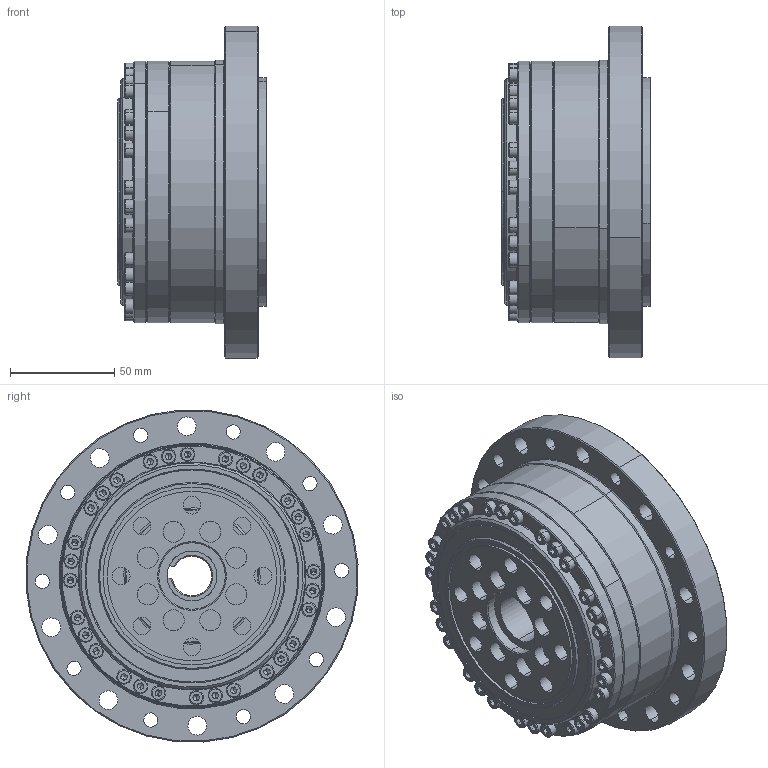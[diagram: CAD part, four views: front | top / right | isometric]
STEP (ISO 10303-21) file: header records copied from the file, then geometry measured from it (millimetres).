
FILE_DESCRIPTION (( 'STEP AP203' ), '1' );
FILE_NAME ('LCSG-40-XXX-C-I-S0.STEP', '2021-09-17T08:32:14', ( 'User' ), ( 'china' ), 'SwSTEP 2.0', 'SolidWorks 2013', '' );
FILE_SCHEMA (( 'CONFIG_CONTROL_DESIGN' ));
Length unit declared in the file: millimetre
Products named in the file (18): LCS-40-P04-2; LHS-40-XXX-P03-I-S0; LCS-40-P04-3;  DB-40-I; 内六角圆柱头螺钉M4 x 16_内六角圆柱头螺钉M4 x 16; ﾊｮﾗﾖﾇﾐｲﾛｳﾁﾍｷﾂﾝｶ､M3 x 8_ISO 7046-1 - M3 x 8 - Z --- 8C; 内六角圆柱头螺钉M4 x 25_内六角圆柱头螺钉M4 x 25; LCSG-40-I-S0疏楷汜ん; 15Z-901026; LCS-40-XXX-P01A; 内六角圆柱头螺钉M12 x 25_DIN 912 M12 x 25 --- 25N; LCSG-40-P02; RZC-40G内外圈+钢球; LCSG-40-XXX-C-I-S0; LCS-40-P05; RZC-40悵厥殤; LCS-40-P04-1; 柔性轴承RZC-40G
Assembly tree (55 placements, depth 4):
  LCSG-40-XXX-C-I-S0
    LCSG-40-I-S0疏楷汜ん
      柔性轴承RZC-40G
        RZC-40G内外圈+钢球
        RZC-40悵厥殤
      LHS-40-XXX-P03-I-S0
       DB-40-I
      ﾊｮﾗﾖﾇﾐｲﾛｳﾁﾍｷﾂﾝｶ､M3 x 8_ISO 7046-1 - M3 x 8 - Z --- 8C  x4
    LCS-40-XXX-P01A
    LCSG-40-P02
    LCS-40-P05
    LCS-40-P04-1
    LCS-40-P04-2
    LCS-40-P04-3
    内六角圆柱头螺钉M4 x 16_内六角圆柱头螺钉M4 x 16  x10
    内六角圆柱头螺钉M4 x 25_内六角圆柱头螺钉M4 x 25  x20
    15Z-901026
    内六角圆柱头螺钉M12 x 25_DIN 912 M12 x 25 --- 25N  x8
Bounding box: 71.5 x 159.6 x 159.6 mm (x, y, z)
Volume: 651470.4 mm3; surface area: 296087.8 mm2
Topology: 77 solids, 77 shells, 1989 faces, 4664 edges, 2789 vertices
Faces by surface type: plane 761, cylinder 652, cone 324, torus 206, sphere 46
Entity records: 30853 total; most frequent: DIRECTION 5508, CARTESIAN_POINT 4624, ORIENTED_EDGE 4378, AXIS2_PLACEMENT_3D 2355, EDGE_CURVE 2189, VERTEX_POINT 1403, CIRCLE 1374, EDGE_LOOP 1268
